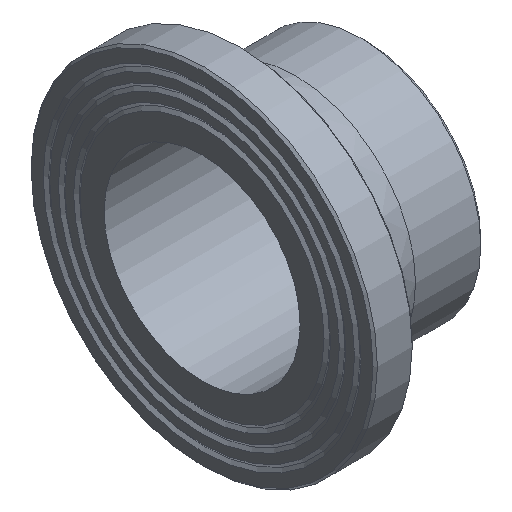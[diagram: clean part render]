
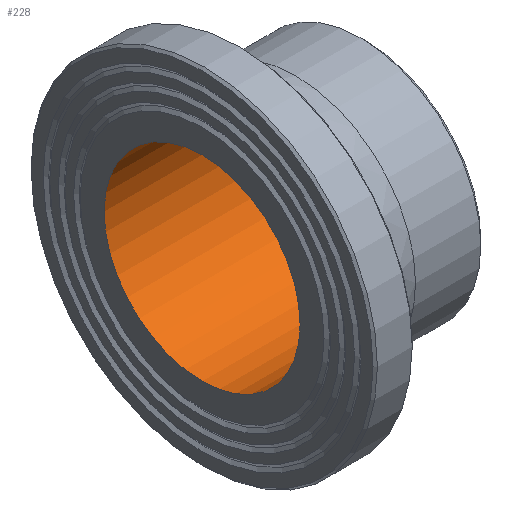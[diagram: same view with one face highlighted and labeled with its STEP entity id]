
A CAD part, isometric view. The second image highlights one B-rep face of the part: STEP entity #228.
In plain terms, the highlighted cylindrical face has radius 45 mm (diameter 90 mm), a full revolution.
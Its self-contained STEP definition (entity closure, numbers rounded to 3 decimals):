
#33=CYLINDRICAL_SURFACE('',#274,45.);
#50=ORIENTED_EDGE('',*,*,#79,.F.);
#51=ORIENTED_EDGE('',*,*,#76,.T.);
#76=EDGE_CURVE('',#96,#96,#116,.T.);
#79=EDGE_CURVE('',#99,#99,#119,.T.);
#96=VERTEX_POINT('',#383);
#99=VERTEX_POINT('',#390);
#116=CIRCLE('',#257,45.);
#119=CIRCLE('',#261,45.);
#150=EDGE_LOOP('',(#50));
#151=EDGE_LOOP('',(#51));
#190=FACE_BOUND('',#150,.T.);
#191=FACE_BOUND('',#151,.T.);
#228=ADVANCED_FACE('',(#190,#191),#33,.F.);
#257=AXIS2_PLACEMENT_3D('',#382,#303,#304);
#261=AXIS2_PLACEMENT_3D('',#389,#311,#312);
#274=AXIS2_PLACEMENT_3D('',#410,#337,#338);
#303=DIRECTION('',(-1.,0.,0.));
#304=DIRECTION('',(0.,0.,1.));
#311=DIRECTION('',(-1.,0.,0.));
#312=DIRECTION('',(0.,0.,1.));
#337=DIRECTION('',(-1.,0.,0.));
#338=DIRECTION('',(0.,0.,1.));
#382=CARTESIAN_POINT('',(0.,0.,0.));
#383=CARTESIAN_POINT('',(0.,0.,45.));
#389=CARTESIAN_POINT('',(75.,0.,0.));
#390=CARTESIAN_POINT('',(75.,0.,45.));
#410=CARTESIAN_POINT('',(60.,0.,0.));
